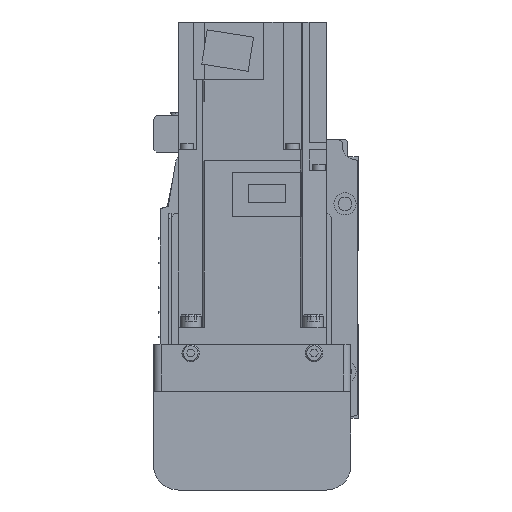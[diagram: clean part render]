
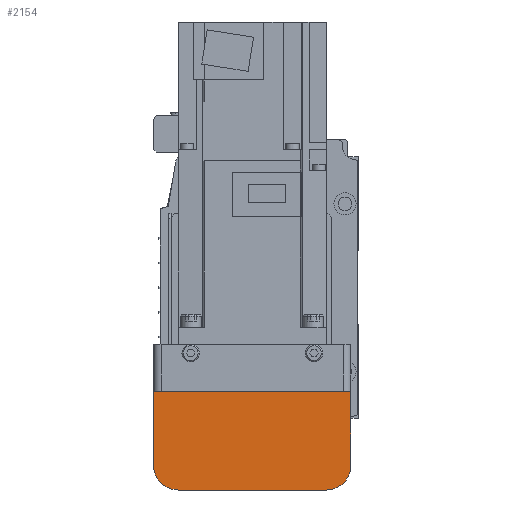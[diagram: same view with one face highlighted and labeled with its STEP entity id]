
A CAD part, left-side view. The second image highlights one B-rep face of the part: STEP entity #2154.
In plain terms, the highlighted planar face has unit normal (-1, 0, 0).
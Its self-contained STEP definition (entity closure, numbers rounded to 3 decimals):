
#2154 = ADVANCED_FACE( '', ( #4445 ), #4446, .F. );
#4445 = FACE_OUTER_BOUND( '', #6765, .T. );
#4446 = PLANE( '', #6766 );
#6765 = EDGE_LOOP( '', ( #12745, #12746, #12747, #12748, #12749, #12750 ) );
#6766 = AXIS2_PLACEMENT_3D( '', #12751, #12752, #12753 );
#12745 = ORIENTED_EDGE( '', *, *, #14693, .F. );
#12746 = ORIENTED_EDGE( '', *, *, #14600, .F. );
#12747 = ORIENTED_EDGE( '', *, *, #14459, .F. );
#12748 = ORIENTED_EDGE( '', *, *, #15627, .F. );
#12749 = ORIENTED_EDGE( '', *, *, #14866, .F. );
#12750 = ORIENTED_EDGE( '', *, *, #15204, .F. );
#12751 = CARTESIAN_POINT( '', ( -192., 37., 7. ) );
#12752 = DIRECTION( '', ( 1., 0., 0. ) );
#12753 = DIRECTION( '', ( 0., 0., -1. ) );
#14459 = EDGE_CURVE( '', #17716, #17718, #17719, .T. );
#14600 = EDGE_CURVE( '', #17718, #17926, #17927, .T. );
#14693 = EDGE_CURVE( '', #17926, #16266, #18058, .T. );
#14866 = EDGE_CURVE( '', #18304, #18306, #18307, .T. );
#15204 = EDGE_CURVE( '', #16266, #18304, #18757, .T. );
#15627 = EDGE_CURVE( '', #18306, #17716, #19239, .T. );
#16266 = VERTEX_POINT( '', #20069 );
#17716 = VERTEX_POINT( '', #22001 );
#17718 = VERTEX_POINT( '', #22004 );
#17719 = CIRCLE( '', #22005, 10. );
#17926 = VERTEX_POINT( '', #22277 );
#17927 = LINE( '', #22278, #22279 );
#18058 = LINE( '', #22459, #22460 );
#18304 = VERTEX_POINT( '', #22793 );
#18306 = VERTEX_POINT( '', #22796 );
#18307 = CIRCLE( '', #22797, 10. );
#18757 = LINE( '', #23430, #23431 );
#19239 = LINE( '', #24074, #24075 );
#20069 = CARTESIAN_POINT( '', ( -192., -40., -12.1 ) );
#22001 = CARTESIAN_POINT( '', ( -192., 30., -52. ) );
#22004 = CARTESIAN_POINT( '', ( -192., 40., -42. ) );
#22005 = AXIS2_PLACEMENT_3D( '', #25698, #25699, #25700 );
#22277 = CARTESIAN_POINT( '', ( -192., 40., -12.1 ) );
#22278 = CARTESIAN_POINT( '', ( -192., 40., -42. ) );
#22279 = VECTOR( '', #25880, 1000. );
#22459 = CARTESIAN_POINT( '', ( -192., 50., -12.1 ) );
#22460 = VECTOR( '', #25981, 1000. );
#22793 = CARTESIAN_POINT( '', ( -192., -40., -42. ) );
#22796 = CARTESIAN_POINT( '', ( -192., -30., -52. ) );
#22797 = AXIS2_PLACEMENT_3D( '', #26202, #26203, #26204 );
#23430 = CARTESIAN_POINT( '', ( -192., -40., -12.1 ) );
#23431 = VECTOR( '', #26517, 1000. );
#24074 = CARTESIAN_POINT( '', ( -192., -30., -52. ) );
#24075 = VECTOR( '', #26883, 1000. );
#25698 = CARTESIAN_POINT( '', ( -192., 30., -42. ) );
#25699 = DIRECTION( '', ( 1., 0., 0. ) );
#25700 = DIRECTION( '', ( 0., 0., -1. ) );
#25880 = DIRECTION( '', ( 0., 0., 1. ) );
#25981 = DIRECTION( '', ( 0., -1., 0. ) );
#26202 = CARTESIAN_POINT( '', ( -192., -30., -42. ) );
#26203 = DIRECTION( '', ( 1., 0., 0. ) );
#26204 = DIRECTION( '', ( 0., 0., -1. ) );
#26517 = DIRECTION( '', ( 0., 0., -1. ) );
#26883 = DIRECTION( '', ( 0., 1., 0. ) );
